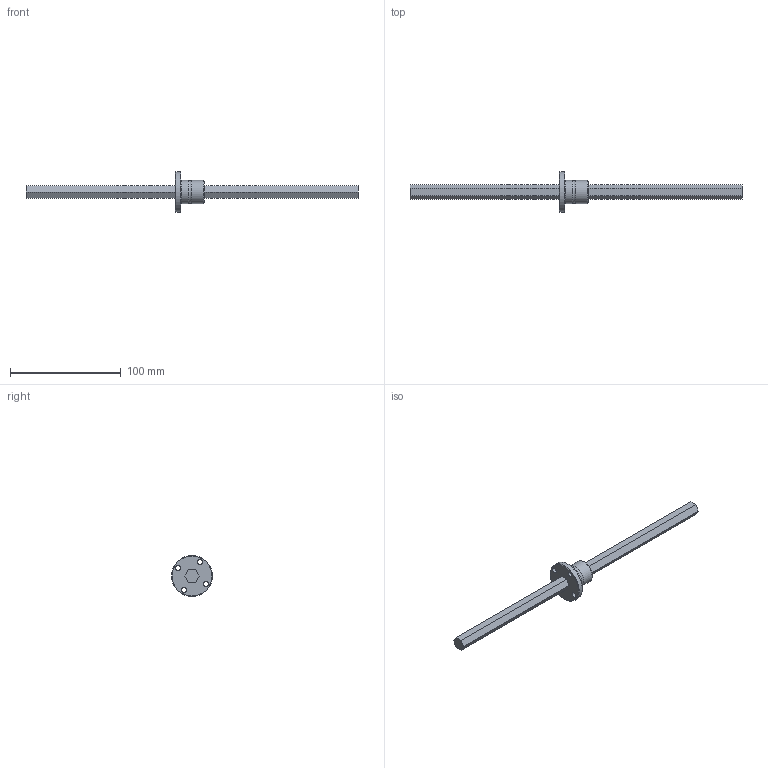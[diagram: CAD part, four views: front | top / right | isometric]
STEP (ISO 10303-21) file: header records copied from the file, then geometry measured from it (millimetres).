
FILE_DESCRIPTION((''),'2;1');
FILE_NAME('D:\製品 (図面)\カタログ用3D\ネジ関連\STEP形式\HTF\HTF11.stp','2010-06-01T16:47:37',('Tsuchiya'),(''),'Autodesk Inventor 10','Autodesk Inventor 10','');
FILE_SCHEMA(('AUTOMOTIVE_DESIGN { 1 0 10303 214 1 1 1 1 }'));
Length unit declared in the file: millimetre
Products named in the file (3): HTF11; HTF111; HTF112
Assembly tree (2 placements, depth 2):
  HTF11
    HTF111
    HTF112
Bounding box: 300 x 37 x 37 mm (x, y, z)
Volume: 40847.2 mm3; surface area: 16694.2 mm2
Topology: 2 solids, 2 shells, 39 faces, 96 edges, 64 vertices
Faces by surface type: plane 25, cylinder 9, cone 2, bspline 2, torus 1
Full cylindrical faces by diameter (mm): 1.5 x1, 4.5 x4, 13.5 x1, 21 x2, 37 x1
Entity records: 1330 total; most frequent: CARTESIAN_POINT 394, DIRECTION 178, ORIENTED_EDGE 152, EDGE_CURVE 76, EDGE_LOOP 68, AXIS2_PLACEMENT_3D 62, VERTEX_POINT 58, VECTOR 54
